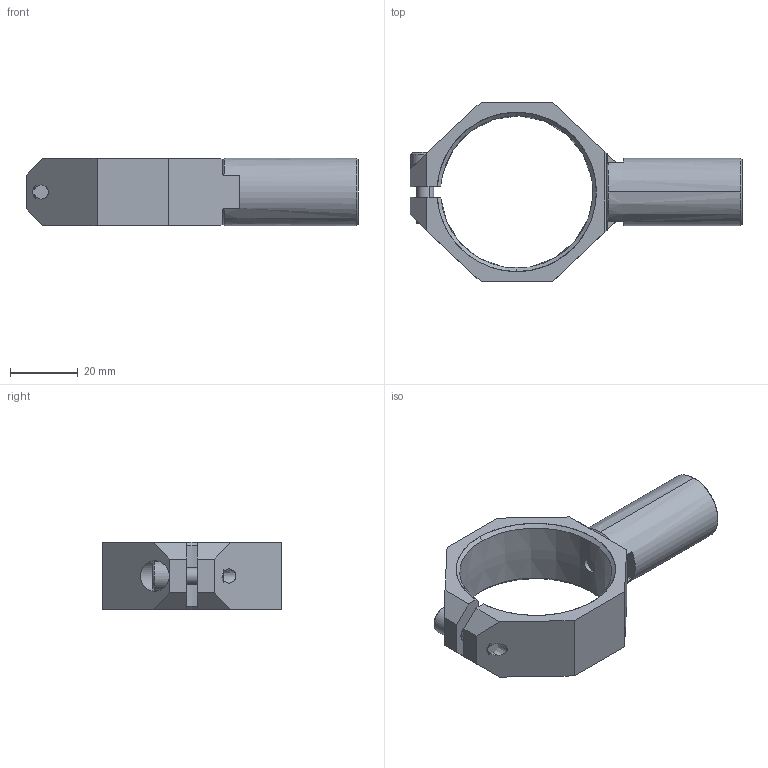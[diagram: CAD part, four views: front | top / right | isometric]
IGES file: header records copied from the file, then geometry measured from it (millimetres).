
Start section: SolidWorks IGES file using analytic representation for surfaces
Global section: file name: \\Ss-share1\share\030eins事業部\技術課\☆eins parts 量産図\3D\切る\NP-RTB-NR10 20 30\web用データ\LX0307-200-0(NP-RTB-NR20).IGS; native system: SolidWorks 2021; preprocessor: SolidWorks 2021; author: STAR089C; date: 220819.144904; units: millimetre
Bounding box: 98 x 53 x 20 mm (x, y, z)
Surface area: 13611.2 mm2 (no closed solid volume)
Topology: 0 solids, 0 shells, 112 faces, 1450 edges, 1438 vertices
Faces by surface type: bspline 65, revolution 47
